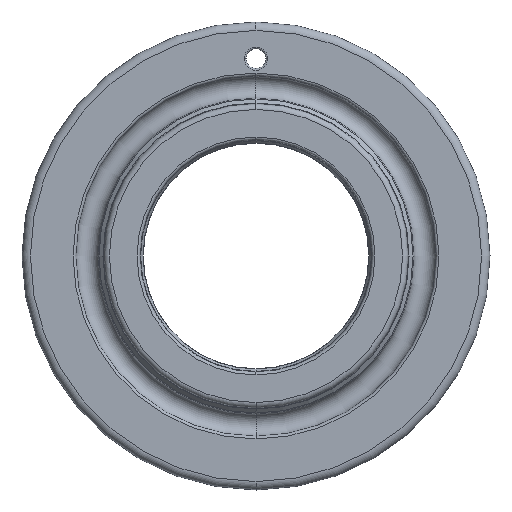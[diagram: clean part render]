
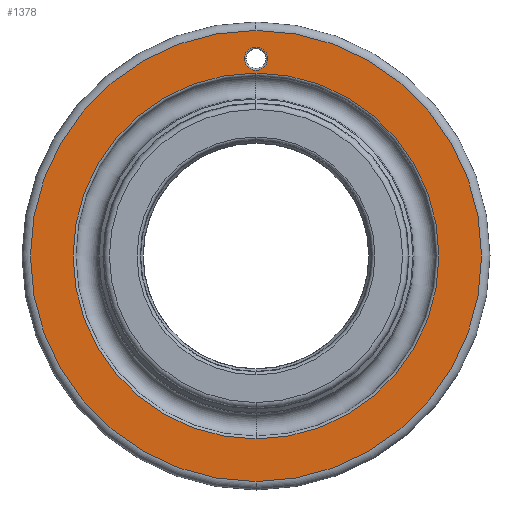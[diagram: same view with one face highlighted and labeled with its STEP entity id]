
A CAD part, front view. The second image highlights one B-rep face of the part: STEP entity #1378.
In plain terms, the highlighted planar face has unit normal (0, -1, 0).
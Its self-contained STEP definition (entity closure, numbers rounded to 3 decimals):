
#131=CARTESIAN_POINT('Vertex',(2.05,0.,35.)) ;
#138=CARTESIAN_POINT('Vertex',(-2.05,0.,35.)) ;
#141=CARTESIAN_POINT('Axis2P3D Location',(0.,0.,35.)) ;
#238=CARTESIAN_POINT('Axis2P3D Location',(0.,0.,35.)) ;
#345=CARTESIAN_POINT('Vertex',(0.,0.,-40.)) ;
#348=CARTESIAN_POINT('Axis2P3D Location',(0.,0.,0.)) ;
#352=CARTESIAN_POINT('Vertex',(0.,0.,40.)) ;
#367=CARTESIAN_POINT('Axis2P3D Location',(0.,0.,0.)) ;
#384=CARTESIAN_POINT('Axis2P3D Location',(0.,0.,0.)) ;
#388=CARTESIAN_POINT('Vertex',(0.,0.,32.449)) ;
#390=CARTESIAN_POINT('Vertex',(0.,0.,-32.449)) ;
#419=CARTESIAN_POINT('Axis2P3D Location',(0.,0.,0.)) ;
#1361=CARTESIAN_POINT('Axis2P3D Location',(0.,0.,40.)) ;
#142=DIRECTION('Axis2P3D Direction',(-0.,1.,0.)) ;
#239=DIRECTION('Axis2P3D Direction',(0.,1.,0.)) ;
#349=DIRECTION('Axis2P3D Direction',(0.,1.,0.)) ;
#368=DIRECTION('Axis2P3D Direction',(0.,1.,0.)) ;
#385=DIRECTION('Axis2P3D Direction',(0.,1.,0.)) ;
#420=DIRECTION('Axis2P3D Direction',(0.,1.,0.)) ;
#1362=DIRECTION('Axis2P3D Direction',(-0.,1.,0.)) ;
#1363=DIRECTION('Axis2P3D XDirection',(1.,0.,0.)) ;
#143=AXIS2_PLACEMENT_3D('Circle Axis2P3D',#141,#142,$) ;
#240=AXIS2_PLACEMENT_3D('Circle Axis2P3D',#238,#239,$) ;
#350=AXIS2_PLACEMENT_3D('Circle Axis2P3D',#348,#349,$) ;
#369=AXIS2_PLACEMENT_3D('Circle Axis2P3D',#367,#368,$) ;
#386=AXIS2_PLACEMENT_3D('Circle Axis2P3D',#384,#385,$) ;
#421=AXIS2_PLACEMENT_3D('Circle Axis2P3D',#419,#420,$) ;
#1364=AXIS2_PLACEMENT_3D('Plane Axis2P3D',#1361,#1362,#1363) ;
#1367=ORIENTED_EDGE('',*,*,#371,.F.) ;
#1368=ORIENTED_EDGE('',*,*,#354,.F.) ;
#1371=ORIENTED_EDGE('',*,*,#242,.T.) ;
#1372=ORIENTED_EDGE('',*,*,#145,.T.) ;
#1375=ORIENTED_EDGE('',*,*,#423,.T.) ;
#1376=ORIENTED_EDGE('',*,*,#392,.T.) ;
#1373=FACE_BOUND('',#1370,.T.) ;
#1377=FACE_BOUND('',#1374,.T.) ;
#1378=ADVANCED_FACE('Corps principal',(#1369,#1373,#1377),#1365,.F.) ;
#144=CIRCLE('generated circle',#143,2.05) ;
#241=CIRCLE('generated circle',#240,2.05) ;
#351=CIRCLE('generated circle',#350,40.) ;
#370=CIRCLE('generated circle',#369,40.) ;
#387=CIRCLE('generated circle',#386,32.449) ;
#422=CIRCLE('generated circle',#421,32.449) ;
#145=EDGE_CURVE('',#132,#139,#144,.T.) ;
#242=EDGE_CURVE('',#139,#132,#241,.T.) ;
#354=EDGE_CURVE('',#346,#353,#351,.T.) ;
#371=EDGE_CURVE('',#353,#346,#370,.T.) ;
#392=EDGE_CURVE('',#389,#391,#387,.T.) ;
#423=EDGE_CURVE('',#391,#389,#422,.T.) ;
#1366=EDGE_LOOP('',(#1367,#1368)) ;
#1370=EDGE_LOOP('',(#1371,#1372)) ;
#1374=EDGE_LOOP('',(#1375,#1376)) ;
#1369=FACE_OUTER_BOUND('',#1366,.T.) ;
#1365=PLANE('',#1364) ;
#132=VERTEX_POINT('',#131) ;
#139=VERTEX_POINT('',#138) ;
#346=VERTEX_POINT('',#345) ;
#353=VERTEX_POINT('',#352) ;
#389=VERTEX_POINT('',#388) ;
#391=VERTEX_POINT('',#390) ;
